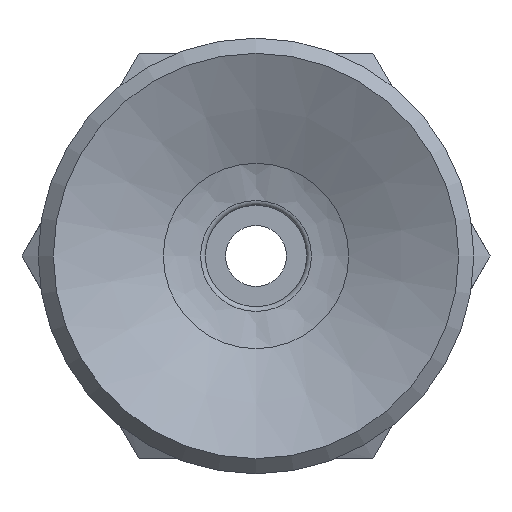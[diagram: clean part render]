
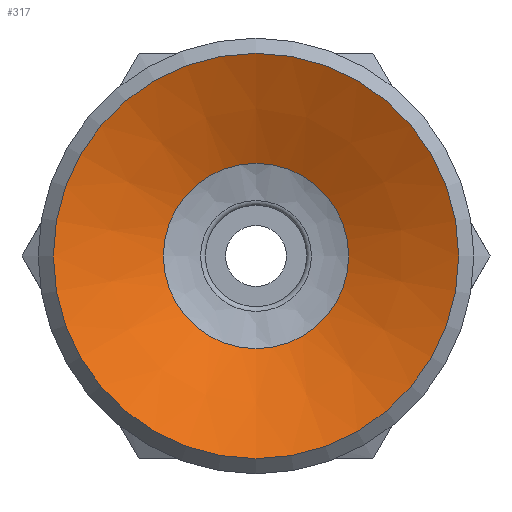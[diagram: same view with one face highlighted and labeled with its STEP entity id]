
A CAD part, front view. The second image highlights one B-rep face of the part: STEP entity #317.
In plain terms, the highlighted conical face has half-angle 65 degrees and reference radius 1.427 mm.
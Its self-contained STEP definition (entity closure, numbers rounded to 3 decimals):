
#317=ADVANCED_FACE('',(#458,#459),#460,.F.);
#458=FACE_BOUND('',#612,.T.);
#459=FACE_OUTER_BOUND('',#613,.T.);
#460=CONICAL_SURFACE('',#614,1.427,1.134);
#612=EDGE_LOOP('',(#941));
#613=EDGE_LOOP('',(#942));
#614=AXIS2_PLACEMENT_3D('',#943,#944,#945);
#941=ORIENTED_EDGE('',*,*,#1042,.T.);
#942=ORIENTED_EDGE('',*,*,#1030,.T.);
#943=CARTESIAN_POINT('',(0.0,7.096,0.));
#944=DIRECTION('',(-0.0,-1.0,0.));
#945=DIRECTION('',(0.0,0.,-1.0));
#1030=EDGE_CURVE('',#1147,#1147,#1148,.T.);
#1042=EDGE_CURVE('',#1171,#1171,#1172,.T.);
#1147=VERTEX_POINT('',#1315);
#1148=CIRCLE('',#1316,4.0);
#1171=VERTEX_POINT('',#1339);
#1172=CIRCLE('',#1340,1.828);
#1315=CARTESIAN_POINT('',(0.0,5.896,-4.0));
#1316=AXIS2_PLACEMENT_3D('',#1456,#1457,#1458);
#1339=CARTESIAN_POINT('',(0.0,6.909,-1.828));
#1340=AXIS2_PLACEMENT_3D('',#1492,#1493,#1494);
#1456=CARTESIAN_POINT('',(0.0,5.896,0.0));
#1457=DIRECTION('',(0.0,-1.0,0.));
#1458=DIRECTION('',(0.0,0.,-1.0));
#1492=CARTESIAN_POINT('',(0.0,6.909,0.0));
#1493=DIRECTION('',(0.0,1.0,0.));
#1494=DIRECTION('',(0.0,0.,-1.0));
